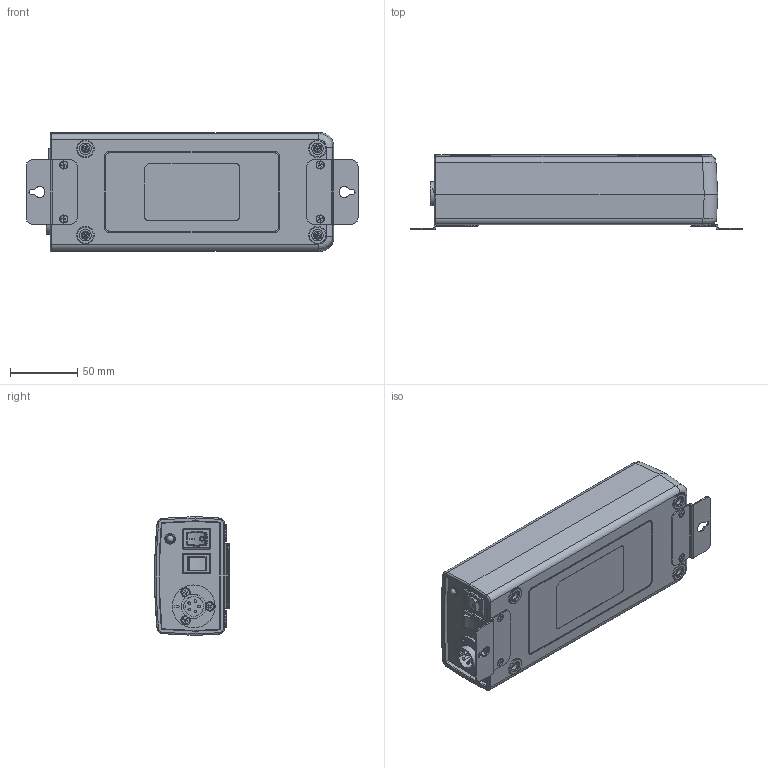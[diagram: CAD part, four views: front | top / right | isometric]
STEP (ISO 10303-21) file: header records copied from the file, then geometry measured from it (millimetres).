
FILE_DESCRIPTION (( 'STEP AP214' ), '1' );
FILE_NAME ('T-70BL²Õ¦X.STEP', '2026-02-09T01:23:25', ( '' ), ( '' ), 'SwSTEP 2.0', 'SolidWorks 2024', '' );
FILE_SCHEMA (( 'AUTOMOTIVE_DESIGN' ));
Length unit declared in the file: millimetre
Products named in the file (1): T-70BL組合
Bounding box: 246 x 55.5 x 88 mm (x, y, z)
Surface area: 167488.8 mm2 (no closed solid volume)
Topology: 0 solids, 27 shells, 1535 faces, 3947 edges, 2554 vertices
Faces by surface type: plane 873, cylinder 362, bspline 218, cone 35, torus 25, sphere 22
Full cylindrical faces by diameter (mm): 1.27 x2, 2 x5, 2.387 x7, 2.6 x3, 2.64 x4, 2.675 x7, 3 x4, 3.15 x4, 3.2 x4, 3.3 x3, 5 x1, 5.1 x1, 5.5 x11, 5.8 x1, 6 x12, 6.3 x2, 7 x1, 7.9 x1, 8.5 x4, 13 x4, 14.6 x1, 16 x1, 18 x1, 31.8 x1
Entity records: 73251 total; most frequent: CARTESIAN_POINT 21865, ORIENTED_EDGE 7518, DIRECTION 6494, EDGE_CURVE 3762, VERTEX_POINT 2519, LINE 2504, VECTOR 2504, AXIS2_PLACEMENT_3D 1995
